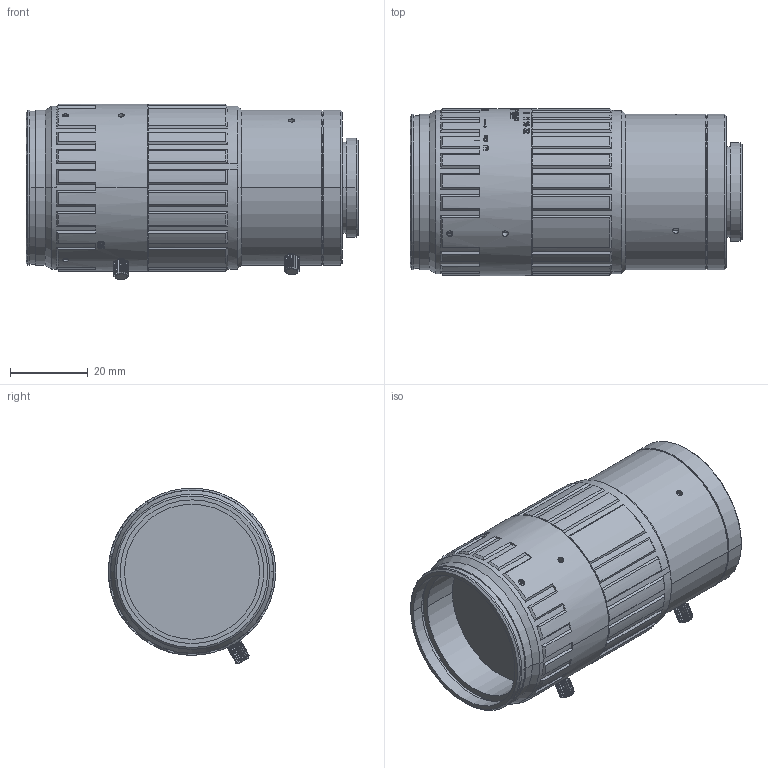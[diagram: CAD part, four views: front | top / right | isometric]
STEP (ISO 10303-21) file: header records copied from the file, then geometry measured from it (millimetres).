
FILE_DESCRIPTION((''),'2;1');
FILE_NAME('OPT-C7528-10M-V1_0','2019-09-12T10:55:19',('dcsongs'),(''),'CREO PARAMETRIC BY PTC INC, 2018400','CREO PARAMETRIC BY PTC INC, 2018400','');
FILE_SCHEMA(('AUTOMOTIVE_DESIGN { 1 0 10303 214 1 1 1 1 }'));
Products named in the file (1): OPT-C7528-10M-V1_0
Bounding box: 85.5 x 43.02 x 45.2 mm (x, y, z)
Volume: 97486.4 mm3; surface area: 20862.7 mm2
Topology: 1 solids, 3 shells, 1462 faces, 4136 edges, 2744 vertices
Faces by surface type: bspline 541, plane 536, cylinder 297, cone 79, extrusion 9
Entity records: 63946 total; most frequent: CARTESIAN_POINT 30259, ORIENTED_EDGE 8256, DIRECTION 4958, EDGE_CURVE 4128, VERTEX_POINT 2743, B_SPLINE_CURVE_WITH_KNOTS 1734, VECTOR 1692, LINE 1683
